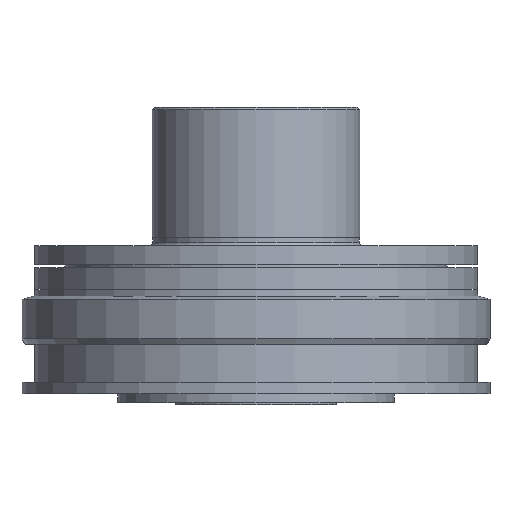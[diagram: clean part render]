
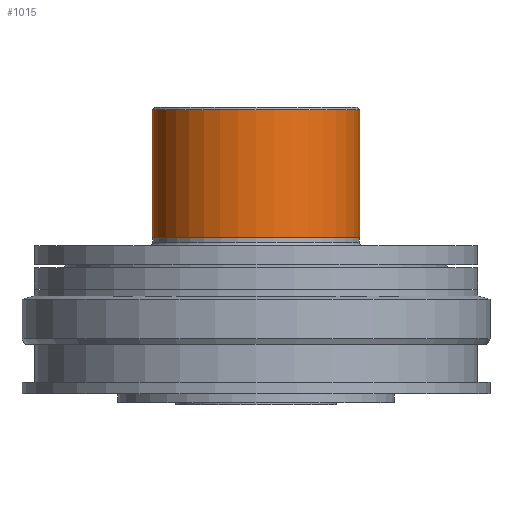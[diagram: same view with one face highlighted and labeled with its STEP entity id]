
A CAD part, front view. The second image highlights one B-rep face of the part: STEP entity #1015.
In plain terms, the highlighted cylindrical face has radius 37.5 mm (diameter 75 mm), a partial arc.
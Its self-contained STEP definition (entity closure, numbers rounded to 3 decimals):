
#1015 = ADVANCED_FACE ( 'NONE', ( #8620 ), #8628, .T. ) ;
#1235 = EDGE_CURVE ( 'NONE', #12211, #11813, #6073, .T. ) ;
#1237 = EDGE_CURVE ( 'NONE', #12017, #11836, #6076, .T. ) ;
#1886 = ORIENTED_EDGE ( 'NONE', *, *, #1235, .T. ) ;
#1923 = EDGE_LOOP ( 'NONE', ( #2116, #2124, #1886, #2204 ) ) ;
#2116 = ORIENTED_EDGE ( 'NONE', *, *, #1237, .F. ) ;
#2124 = ORIENTED_EDGE ( 'NONE', *, *, #14135, .F. ) ;
#2204 = ORIENTED_EDGE ( 'NONE', *, *, #14491, .T. ) ;
#4879 = AXIS2_PLACEMENT_3D ( 'NONE', #9994, #9995, #9997 ) ;
#5015 = AXIS2_PLACEMENT_3D ( 'NONE', #6995, #6996, #6997 ) ;
#5403 = CARTESIAN_POINT ( 'NONE',  ( 0., 0., -182.037 ) ) ;
#5404 = DIRECTION ( 'NONE',  ( 0., 0., 1. ) ) ;
#5412 = DIRECTION ( 'NONE',  ( 1., 0., 0. ) ) ;
#6073 = LINE ( 'NONE', #8299, #6077 ) ;
#6076 = LINE ( 'NONE', #8305, #6080 ) ;
#6077 = VECTOR ( 'NONE', #8298, 1000. ) ;
#6080 = VECTOR ( 'NONE', #8303, 1000. ) ;
#6332 = CIRCLE ( 'NONE', #4879, 37.5 ) ;
#6657 = CIRCLE ( 'NONE', #5015, 37.5 ) ;
#6995 = CARTESIAN_POINT ( 'NONE',  ( 0., 0., 102.5 ) ) ;
#6996 = DIRECTION ( 'NONE',  ( 0., 0., -1. ) ) ;
#6997 = DIRECTION ( 'NONE',  ( 1., 0., 0. ) ) ;
#7704 = CARTESIAN_POINT ( 'NONE',  ( 37.5, 0., 102.5 ) ) ;
#7727 = CARTESIAN_POINT ( 'NONE',  ( -37.5, 0., 102.5 ) ) ;
#8298 = DIRECTION ( 'NONE',  ( 0., 0., 1. ) ) ;
#8299 = CARTESIAN_POINT ( 'NONE',  ( 37.5, 0., -182.037 ) ) ;
#8303 = DIRECTION ( 'NONE',  ( 0., 0., 1. ) ) ;
#8305 = CARTESIAN_POINT ( 'NONE',  ( -37.5, 0., -182.037 ) ) ;
#8620 = FACE_OUTER_BOUND ( 'NONE', #1923, .T. ) ;
#8628 = CYLINDRICAL_SURFACE ( 'NONE', #11782, 37.5 ) ;
#9401 = CARTESIAN_POINT ( 'NONE',  ( -37.5, 0., 56.5 ) ) ;
#9593 = CARTESIAN_POINT ( 'NONE',  ( 37.5, 0., 56.5 ) ) ;
#9994 = CARTESIAN_POINT ( 'NONE',  ( 0., 0., 56.5 ) ) ;
#9995 = DIRECTION ( 'NONE',  ( 0., 0., -1. ) ) ;
#9997 = DIRECTION ( 'NONE',  ( 1., 0., 0. ) ) ;
#11782 = AXIS2_PLACEMENT_3D ( 'NONE', #5403, #5404, #5412 ) ;
#11813 = VERTEX_POINT ( 'NONE', #7704 ) ;
#11836 = VERTEX_POINT ( 'NONE', #7727 ) ;
#12017 = VERTEX_POINT ( 'NONE', #9401 ) ;
#12211 = VERTEX_POINT ( 'NONE', #9593 ) ;
#14135 = EDGE_CURVE ( 'NONE', #12211, #12017, #6332, .T. ) ;
#14491 = EDGE_CURVE ( 'NONE', #11813, #11836, #6657, .T. ) ;
